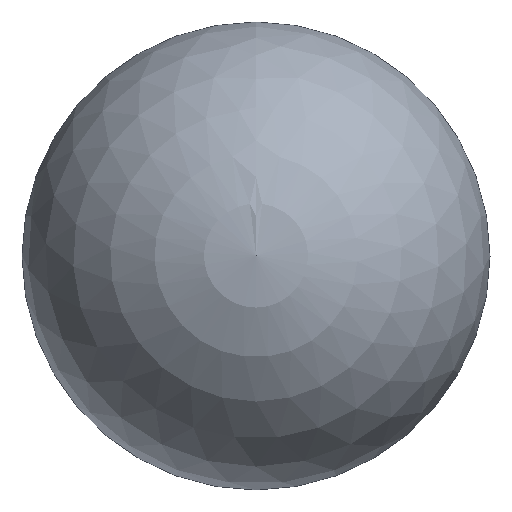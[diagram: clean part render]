
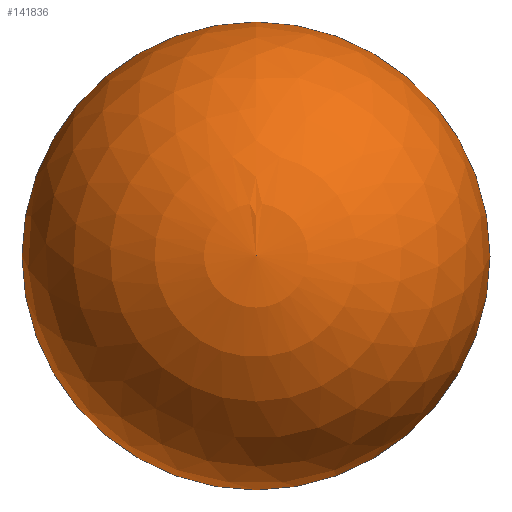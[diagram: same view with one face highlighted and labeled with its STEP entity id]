
A CAD part, top view. The second image highlights one B-rep face of the part: STEP entity #141836.
In plain terms, the highlighted spherical face has radius 1414.08 mm.
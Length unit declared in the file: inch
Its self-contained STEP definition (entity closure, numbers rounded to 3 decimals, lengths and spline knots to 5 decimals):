
#672 = CARTESIAN_POINT ( 'NONE',  ( 0., 38., 0. ) ) ;
#2997 = CARTESIAN_POINT ( 'NONE',  ( 0., 38., 0. ) ) ;
#19178 = DIRECTION ( 'NONE',  ( 0., 1., 0. ) ) ;
#20444 = FACE_OUTER_BOUND ( 'NONE', #64819, .T. ) ;
#44718 = DIRECTION ( 'NONE',  ( 0., 0., 1. ) ) ;
#47872 = CIRCLE ( 'NONE', #83447, 55.67233 ) ;
#57989 = EDGE_CURVE ( 'NONE', #75311, #182294, #194341, .T. ) ;
#64300 = CARTESIAN_POINT ( 'NONE',  ( -55.67233, 38., 0. ) ) ;
#64819 = EDGE_LOOP ( 'NONE', ( #103380, #177212 ) ) ;
#75311 = VERTEX_POINT ( 'NONE', #190045 ) ;
#83447 = AXIS2_PLACEMENT_3D ( 'NONE', #140924, #44718, #157127 ) ;
#94334 = AXIS2_PLACEMENT_3D ( 'NONE', #2997, #115357, #19178 ) ;
#103380 = ORIENTED_EDGE ( 'NONE', *, *, #57989, .F. ) ;
#113070 = DIRECTION ( 'NONE',  ( 0., 1., 0. ) ) ;
#115357 = DIRECTION ( 'NONE',  ( 0., 0., -1. ) ) ;
#140924 = CARTESIAN_POINT ( 'NONE',  ( 0., 38., 0. ) ) ;
#141836 = ADVANCED_FACE ( 'NONE', ( #20444 ), #196560, .T. ) ;
#144700 = DIRECTION ( 'NONE',  ( 0., 0., -1. ) ) ;
#157127 = DIRECTION ( 'NONE',  ( 1., 0., 0. ) ) ;
#166617 = EDGE_CURVE ( 'NONE', #75311, #182294, #47872, .T. ) ;
#177212 = ORIENTED_EDGE ( 'NONE', *, *, #166617, .T. ) ;
#179233 = AXIS2_PLACEMENT_3D ( 'NONE', #672, #144700, #113070 ) ;
#182294 = VERTEX_POINT ( 'NONE', #64300 ) ;
#190045 = CARTESIAN_POINT ( 'NONE',  ( 55.67233, 38., 0. ) ) ;
#194341 = CIRCLE ( 'NONE', #94334, 55.67233 ) ;
#196560 = SPHERICAL_SURFACE ( 'NONE', #179233, 55.67233 ) ;
